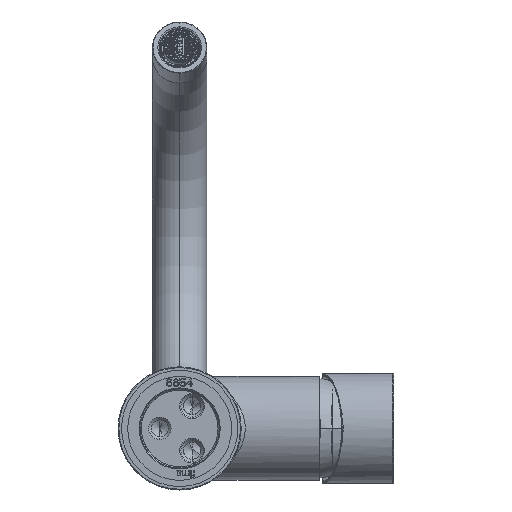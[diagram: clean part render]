
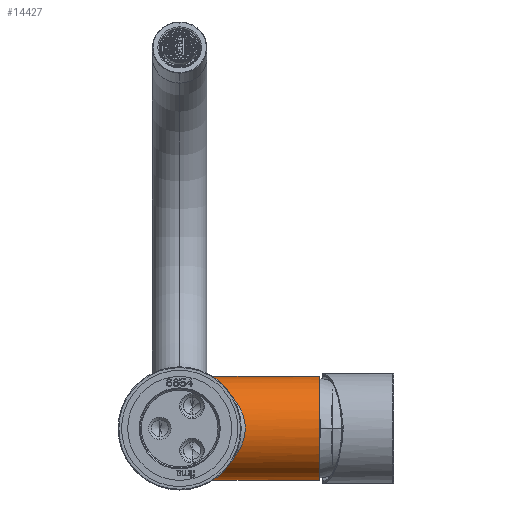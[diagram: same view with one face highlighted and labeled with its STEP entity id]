
A CAD part, front view. The second image highlights one B-rep face of the part: STEP entity #14427.
In plain terms, the highlighted cylindrical face has radius 21 mm (diameter 42 mm), a partial arc.
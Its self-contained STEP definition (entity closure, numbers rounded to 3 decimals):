
#1677=CARTESIAN_POINT('',(0.,53.,-21.));
#1752=CARTESIAN_POINT('',(0.,53.,21.));
#1903=DIRECTION('',(1.,0.,0.));
#1904=VECTOR('',#1903,56.5);
#1905=CARTESIAN_POINT('',(0.,53.,-21.));
#1906=LINE('',#1905,#1904);
#1945=CARTESIAN_POINT('',(56.5,53.,0.));
#1946=DIRECTION('',(1.,0.,0.));
#1947=DIRECTION('',(0.,0.,1.));
#1948=AXIS2_PLACEMENT_3D('',#1945,#1946,#1947);
#1950=CARTESIAN_POINT('',(0.,53.,21.));
#1951=CARTESIAN_POINT('',(0.506,52.599,21.));
#1952=CARTESIAN_POINT('',(1.514,51.8,20.977));
#1953=CARTESIAN_POINT('',(3.02,50.607,20.875));
#1954=CARTESIAN_POINT('',(4.51,49.426,20.705));
#1955=CARTESIAN_POINT('',(5.974,48.266,20.471));
#1956=CARTESIAN_POINT('',(7.405,47.132,20.175));
#1957=CARTESIAN_POINT('',(8.797,46.029,19.82));
#1958=CARTESIAN_POINT('',(10.142,44.963,19.412));
#1959=CARTESIAN_POINT('',(11.436,43.937,18.955));
#1960=CARTESIAN_POINT('',(12.676,42.955,18.453));
#1961=CARTESIAN_POINT('',(13.857,42.019,17.911));
#1962=CARTESIAN_POINT('',(14.979,41.13,17.334));
#1963=CARTESIAN_POINT('',(16.039,40.29,16.727));
#1964=CARTESIAN_POINT('',(17.037,39.499,16.095));
#1965=CARTESIAN_POINT('',(17.973,38.757,15.442));
#1966=CARTESIAN_POINT('',(18.848,38.064,14.772));
#1967=CARTESIAN_POINT('',(19.663,37.418,14.089));
#1968=CARTESIAN_POINT('',(20.419,36.819,13.396));
#1969=CARTESIAN_POINT('',(21.119,36.264,12.695));
#1970=CARTESIAN_POINT('',(21.765,35.752,11.99));
#1971=CARTESIAN_POINT('',(22.359,35.282,11.283));
#1972=CARTESIAN_POINT('',(22.902,34.851,10.575));
#1973=CARTESIAN_POINT('',(23.399,34.457,9.868));
#1974=CARTESIAN_POINT('',(23.851,34.1,9.164));
#1975=CARTESIAN_POINT('',(24.26,33.775,8.462));
#1976=CARTESIAN_POINT('',(24.628,33.483,7.764));
#1977=CARTESIAN_POINT('',(24.959,33.221,7.07));
#1978=CARTESIAN_POINT('',(25.253,32.988,6.38));
#1979=CARTESIAN_POINT('',(25.512,32.783,5.694));
#1980=CARTESIAN_POINT('',(25.739,32.603,5.013));
#1981=CARTESIAN_POINT('',(25.934,32.449,4.336));
#1982=CARTESIAN_POINT('',(26.099,32.318,3.662));
#1983=CARTESIAN_POINT('',(26.234,32.211,2.992));
#1984=CARTESIAN_POINT('',(26.342,32.125,2.324));
#1985=CARTESIAN_POINT('',(26.422,32.062,1.659));
#1986=CARTESIAN_POINT('',(26.475,32.02,0.995));
#1987=CARTESIAN_POINT('',(26.501,31.999,0.332));
#1988=CARTESIAN_POINT('',(26.501,31.999,
-0.331));
#1989=CARTESIAN_POINT('',(26.475,32.02,
-0.994));
#1990=CARTESIAN_POINT('',(26.422,32.062,-1.658));
#1991=CARTESIAN_POINT('',(26.342,32.125,-2.324));
#1992=CARTESIAN_POINT('',(26.234,32.21,-2.991));
#1993=CARTESIAN_POINT('',(26.099,32.318,-3.662));
#1994=CARTESIAN_POINT('',(25.934,32.449,-4.335));
#1995=CARTESIAN_POINT('',(25.739,32.603,-5.012));
#1996=CARTESIAN_POINT('',(25.513,32.782,-5.694));
#1997=CARTESIAN_POINT('',(25.253,32.988,-6.379));
#1998=CARTESIAN_POINT('',(24.959,33.221,-7.069));
#1999=CARTESIAN_POINT('',(24.629,33.483,-7.763));
#2000=CARTESIAN_POINT('',(24.26,33.775,-8.461));
#2001=CARTESIAN_POINT('',(23.851,34.099,-9.163));
#2002=CARTESIAN_POINT('',(23.399,34.457,-9.868));
#2003=CARTESIAN_POINT('',(22.903,34.851,-10.575));
#2004=CARTESIAN_POINT('',(22.359,35.282,-11.282));
#2005=CARTESIAN_POINT('',(21.765,35.752,-11.99));
#2006=CARTESIAN_POINT('',(21.12,36.264,-12.694));
#2007=CARTESIAN_POINT('',(20.42,36.818,-13.395));
#2008=CARTESIAN_POINT('',(19.663,37.418,-14.088));
#2009=CARTESIAN_POINT('',(18.848,38.064,-14.772));
#2010=CARTESIAN_POINT('',(17.973,38.757,-15.442));
#2011=CARTESIAN_POINT('',(17.037,39.499,-16.095));
#2012=CARTESIAN_POINT('',(16.039,40.29,-16.727));
#2013=CARTESIAN_POINT('',(14.979,41.13,-17.334));
#2014=CARTESIAN_POINT('',(13.858,42.018,-17.911));
#2015=CARTESIAN_POINT('',(12.676,42.955,-18.452));
#2016=CARTESIAN_POINT('',(11.437,43.937,-18.955));
#2017=CARTESIAN_POINT('',(10.142,44.963,-19.412));
#2018=CARTESIAN_POINT('',(8.797,46.029,-19.82));
#2019=CARTESIAN_POINT('',(7.405,47.132,-20.175));
#2020=CARTESIAN_POINT('',(5.974,48.266,-20.471));
#2021=CARTESIAN_POINT('',(4.51,49.426,-20.705));
#2022=CARTESIAN_POINT('',(3.021,50.606,-20.875));
#2023=CARTESIAN_POINT('',(1.514,51.8,-20.977));
#2024=CARTESIAN_POINT('',(0.506,52.599,
-21.));
#2025=CARTESIAN_POINT('',(0.,53.,-21.));
#2027=DIRECTION('',(1.,0.,0.));
#2028=VECTOR('',#2027,56.5);
#2029=CARTESIAN_POINT('',(0.,53.,21.));
#2030=LINE('',#2029,#2028);
#10621=VERTEX_POINT('',#1677);
#10622=VERTEX_POINT('',#1752);
#10623=CARTESIAN_POINT('',(56.5,53.,-21.));
#10624=CARTESIAN_POINT('',(56.5,53.,21.));
#10625=VERTEX_POINT('',#10623);
#10626=VERTEX_POINT('',#10624);
#14415=CARTESIAN_POINT('',(0.,53.,0.));
#14416=DIRECTION('',(1.,0.,0.));
#14417=DIRECTION('',(0.,0.,-1.));
#14418=AXIS2_PLACEMENT_3D('',#14415,#14416,#14417);
#14419=CYLINDRICAL_SURFACE('',#14418,21.);
#14420=ORIENTED_EDGE('',*,*,#14390,.T.);
#14421=ORIENTED_EDGE('',*,*,#14379,.F.);
#14423=ORIENTED_EDGE('',*,*,#14422,.F.);
#14424=ORIENTED_EDGE('',*,*,#14376,.T.);
#14425=EDGE_LOOP('',(#14420,#14421,#14423,#14424));
#14426=FACE_OUTER_BOUND('',#14425,.F.);
#14427=ADVANCED_FACE('',(#14426),#14419,.T.);
#1949=CIRCLE('',#1948,21.);
#2026=B_SPLINE_CURVE_WITH_KNOTS('',3,(#1950,#1951,#1952,#1953,#1954,#1955,#1956,
#1957,#1958,#1959,#1960,#1961,#1962,#1963,#1964,#1965,#1966,#1967,#1968,#1969,
#1970,#1971,#1972,#1973,#1974,#1975,#1976,#1977,#1978,#1979,#1980,#1981,#1982,
#1983,#1984,#1985,#1986,#1987,#1988,#1989,#1990,#1991,#1992,#1993,#1994,#1995,
#1996,#1997,#1998,#1999,#2000,#2001,#2002,#2003,#2004,#2005,#2006,#2007,#2008,
#2009,#2010,#2011,#2012,#2013,#2014,#2015,#2016,#2017,#2018,#2019,#2020,#2021,
#2022,#2023,#2024,#2025),.UNSPECIFIED.,.F.,.F.,(4,1,1,1,1,1,1,1,1,1,1,1,1,1,1,1,
1,1,1,1,1,1,1,1,1,1,1,1,1,1,1,1,1,1,1,1,1,1,1,1,1,1,1,1,1,1,1,1,1,1,1,1,1,1,1,1,
1,1,1,1,1,1,1,1,1,1,1,1,1,1,1,1,1,4),(0.,0.014,0.027,
0.041,0.055,0.068,0.082,
0.096,0.11,0.123,0.137,
0.151,0.164,0.178,0.192,
0.205,0.219,0.233,0.247,
0.26,0.274,0.288,0.301,
0.315,0.329,0.342,0.356,
0.37,0.384,0.397,0.411,
0.425,0.438,0.452,0.466,
0.479,0.493,0.507,0.521,
0.534,0.548,0.562,0.575,
0.589,0.603,0.616,0.63,
0.644,0.658,0.671,0.685,
0.699,0.712,0.726,0.74,
0.753,0.767,0.781,0.795,
0.808,0.822,0.836,0.849,
0.863,0.877,0.89,0.904,
0.918,0.932,0.945,0.959,
0.973,0.986,1.),.UNSPECIFIED.);
#14376=EDGE_CURVE('',#10622,#10626,#2030,.T.);
#14379=EDGE_CURVE('',#10621,#10625,#1906,.T.);
#14390=EDGE_CURVE('',#10626,#10625,#1949,.T.);
#14422=EDGE_CURVE('',#10622,#10621,#2026,.T.);
